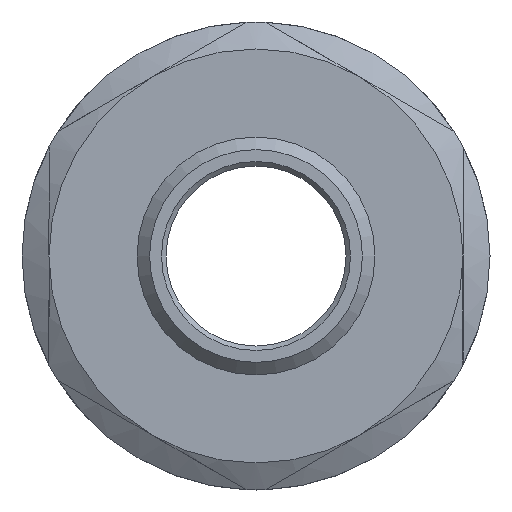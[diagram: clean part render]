
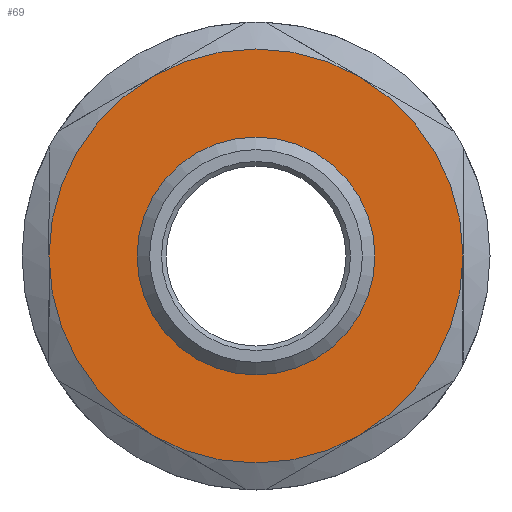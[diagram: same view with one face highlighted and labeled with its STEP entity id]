
A CAD part, front view. The second image highlights one B-rep face of the part: STEP entity #69.
In plain terms, the highlighted planar face has unit normal (0, -1, 0).
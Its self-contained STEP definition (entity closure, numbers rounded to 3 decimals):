
#69=ADVANCED_FACE('',(#264,#266),#268,.F.);
#264=FACE_BOUND('',#265,.T.);
#265=EDGE_LOOP('',(#423,#424,#425,#426,#427,#428));
#266=FACE_BOUND('',#267,.T.);
#267=EDGE_LOOP('',(#429));
#268=PLANE('',#269);
#269=AXIS2_PLACEMENT_3D('',#270,#271,#272);
#270=CARTESIAN_POINT('',(0.,-19.,0.));
#271=DIRECTION('',(0.,1.,0.));
#272=DIRECTION('',(-1.,0.,0.));
#423=ORIENTED_EDGE('',*,*,#491,.T.);
#424=ORIENTED_EDGE('',*,*,#487,.T.);
#425=ORIENTED_EDGE('',*,*,#482,.T.);
#426=ORIENTED_EDGE('',*,*,#479,.T.);
#427=ORIENTED_EDGE('',*,*,#499,.T.);
#428=ORIENTED_EDGE('',*,*,#495,.T.);
#429=ORIENTED_EDGE('',*,*,#475,.F.);
#475=EDGE_CURVE('',#571,#571,#572,.T.);
#479=EDGE_CURVE('',#575,#577,#579,.F.);
#482=EDGE_CURVE('',#582,#575,#583,.F.);
#487=EDGE_CURVE('',#587,#582,#589,.F.);
#491=EDGE_CURVE('',#592,#587,#594,.F.);
#495=EDGE_CURVE('',#597,#592,#599,.F.);
#499=EDGE_CURVE('',#577,#597,#603,.F.);
#571=VERTEX_POINT('',#768);
#572=CIRCLE('',#769,13.221);
#575=VERTEX_POINT('',#778);
#577=VERTEX_POINT('',#805);
#579=CIRCLE('',#843,23.);
#582=VERTEX_POINT('',#921);
#583=CIRCLE('',#922,23.);
#587=VERTEX_POINT('',#1026);
#589=CIRCLE('',#1059,23.);
#592=VERTEX_POINT('',#1149);
#594=CIRCLE('',#1176,23.);
#597=VERTEX_POINT('',#1254);
#599=CIRCLE('',#1281,23.);
#603=CIRCLE('',#1391,23.);
#768=CARTESIAN_POINT('',(13.221,-19.,0.));
#769=AXIS2_PLACEMENT_3D('',#770,#771,#772);
#770=CARTESIAN_POINT('',(0.,-19.,0.));
#771=DIRECTION('',(0.,-1.,0.));
#772=DIRECTION('',(1.,0.,0.));
#778=CARTESIAN_POINT('',(-11.5,-19.,19.919));
#805=CARTESIAN_POINT('',(-23.,-19.,0.));
#843=AXIS2_PLACEMENT_3D('',#844,#845,#846);
#844=CARTESIAN_POINT('',(0.,-19.,0.));
#845=DIRECTION('',(0.,1.,0.));
#846=DIRECTION('',(-1.,0.,0.));
#921=CARTESIAN_POINT('',(11.5,-19.,19.919));
#922=AXIS2_PLACEMENT_3D('',#923,#924,#925);
#923=CARTESIAN_POINT('',(0.,-19.,0.));
#924=DIRECTION('',(0.,1.,0.));
#925=DIRECTION('',(-0.5,0.,0.866));
#1026=CARTESIAN_POINT('',(23.,-19.,0.));
#1059=AXIS2_PLACEMENT_3D('',#1060,#1061,#1062);
#1060=CARTESIAN_POINT('',(0.,-19.,0.));
#1061=DIRECTION('',(0.,1.,0.));
#1062=DIRECTION('',(0.5,0.,0.866));
#1149=CARTESIAN_POINT('',(11.5,-19.,-19.919));
#1176=AXIS2_PLACEMENT_3D('',#1177,#1178,#1179);
#1177=CARTESIAN_POINT('',(0.,-19.,0.));
#1178=DIRECTION('',(0.,1.,0.));
#1179=DIRECTION('',(1.,0.,0.));
#1254=CARTESIAN_POINT('',(-11.5,-19.,-19.919));
#1281=AXIS2_PLACEMENT_3D('',#1282,#1283,#1284);
#1282=CARTESIAN_POINT('',(0.,-19.,0.));
#1283=DIRECTION('',(0.,1.,0.));
#1284=DIRECTION('',(0.5,0.,-0.866));
#1391=AXIS2_PLACEMENT_3D('',#1392,#1393,#1394);
#1392=CARTESIAN_POINT('',(0.,-19.,0.));
#1393=DIRECTION('',(0.,1.,0.));
#1394=DIRECTION('',(-0.5,0.,-0.866));
